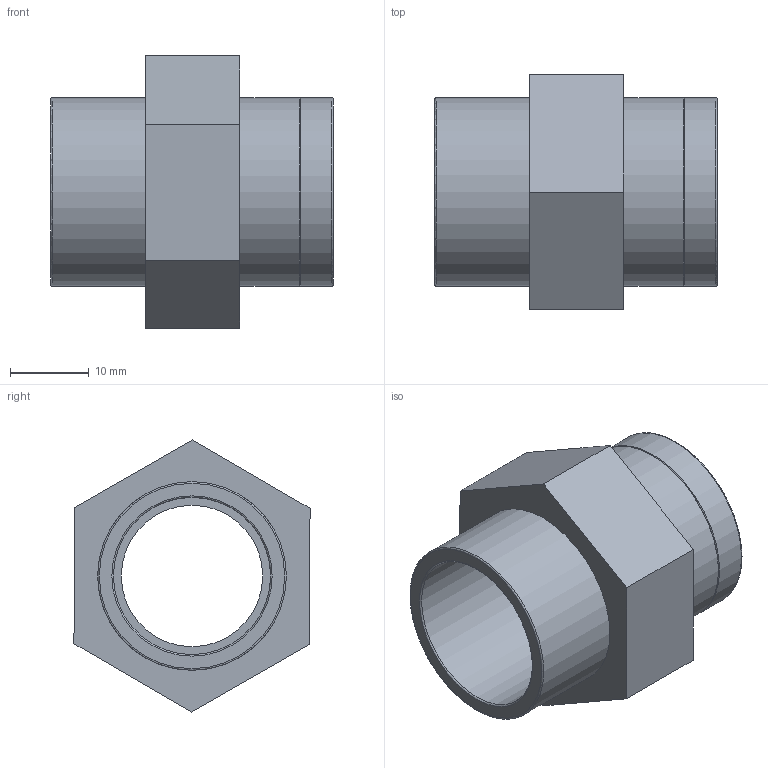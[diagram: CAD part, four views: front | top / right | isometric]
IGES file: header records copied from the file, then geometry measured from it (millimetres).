
Global section: file name: 057102020005.ipt; native system: Autodesk Inventor 2015; preprocessor: unknown; author: KIM; date: 20171207.165805; units: millimetre
Bounding box: 36 x 30.05 x 34.64 mm (x, y, z)
Volume: 9782.8 mm3; surface area: 6259.3 mm2
Topology: 1 solids, 1 shells, 24 faces, 61 edges, 43 vertices
Faces by surface type: plane 12, revolution 7, cylinder 3, cone 2
Full cylindrical faces by diameter (mm): 24 x3
